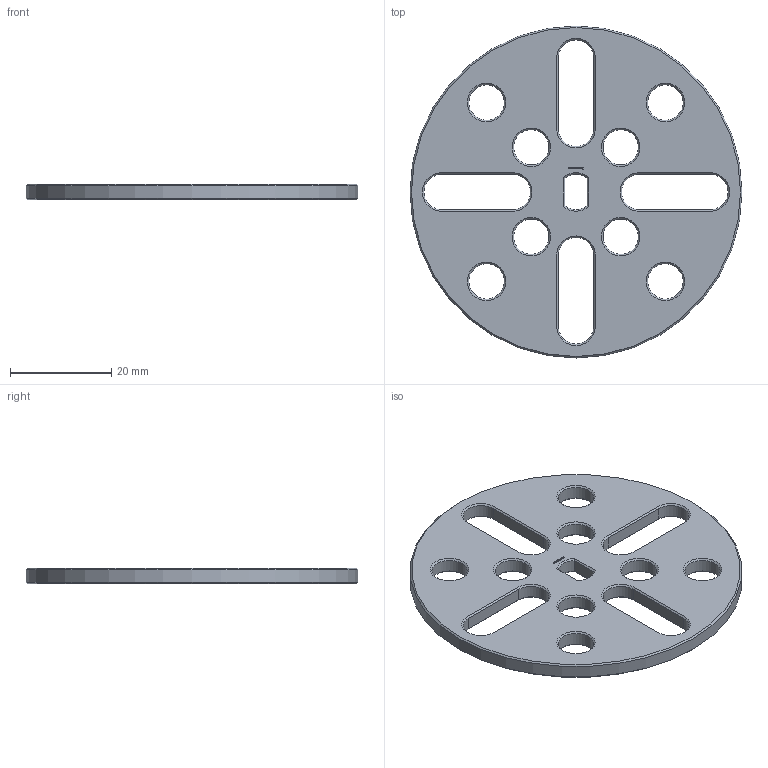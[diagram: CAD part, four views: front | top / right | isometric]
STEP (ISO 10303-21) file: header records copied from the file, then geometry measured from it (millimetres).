
FILE_DESCRIPTION(/* description */ (''),/* implementation_level */ '2;1');
FILE_NAME(/* name */ '/Users/paulokiefe/Desktop/STEMFIE/Fasteners/Washers/Fixed/Washer WSR FXD BU0.25x5.25 - SPN-WSR-0018 v1.step',/* time_stamp */ '2020-09-27T23:18:19+02:00',/* author */ (''),/* organization */ (''),/* preprocessor_version */ 'ST-DEVELOPER v18.1',/* originating_system */ 'Autodesk Translation Framework v9.3.0.1241',/* authorisation */ '');
FILE_SCHEMA (('AUTOMOTIVE_DESIGN { 1 0 10303 214 3 1 1 }'));
Length unit declared in the file: millimetre
Products named in the file (1): Washer WSR FXD BU0.25x5.25 - SPN-WSR-0018
Bounding box: 65.62 x 65.62 x 3.12 mm (x, y, z)
Volume: 7752 mm3; surface area: 6672.3 mm2
Topology: 1 solids, 1 shells, 333 faces, 899 edges, 580 vertices
Faces by surface type: plane 276, cone 38, cylinder 19
Full cylindrical faces by diameter (mm): 7 x8, 65.625 x1
Entity records: 10318 total; most frequent: CARTESIAN_POINT 1837, ORIENTED_EDGE 1798, DIRECTION 1635, EDGE_CURVE 899, LINE 815, VECTOR 815, VERTEX_POINT 580, AXIS2_PLACEMENT_3D 410
